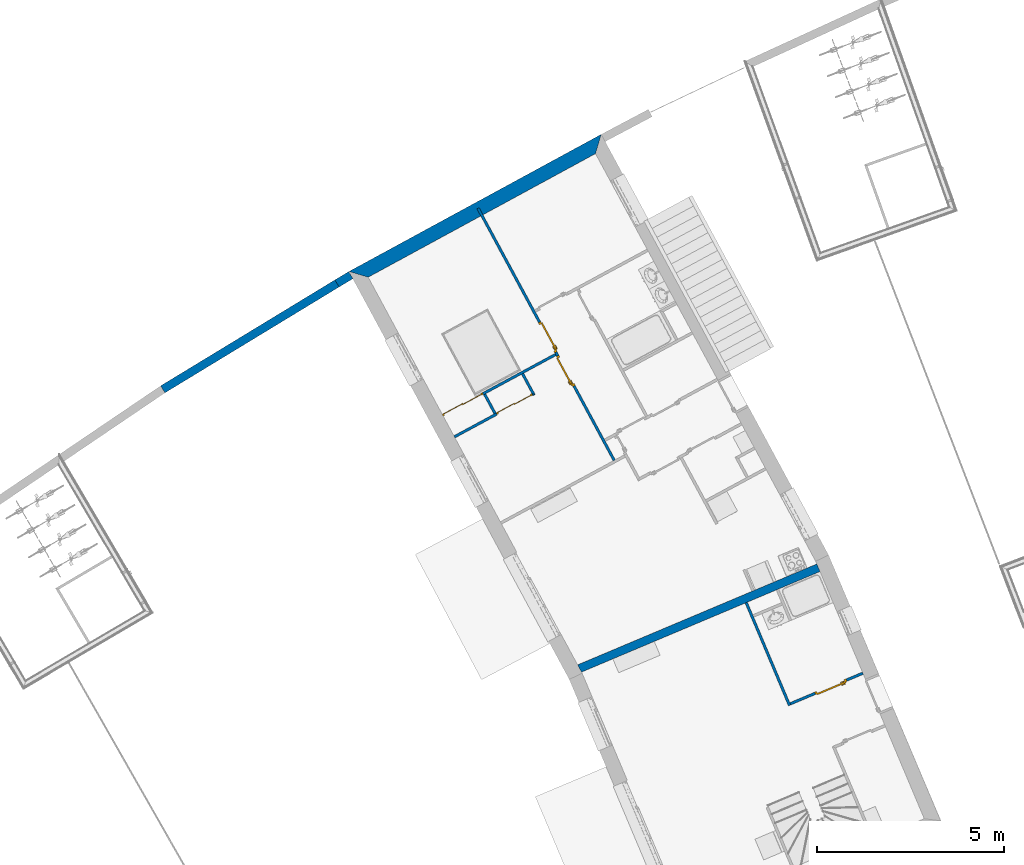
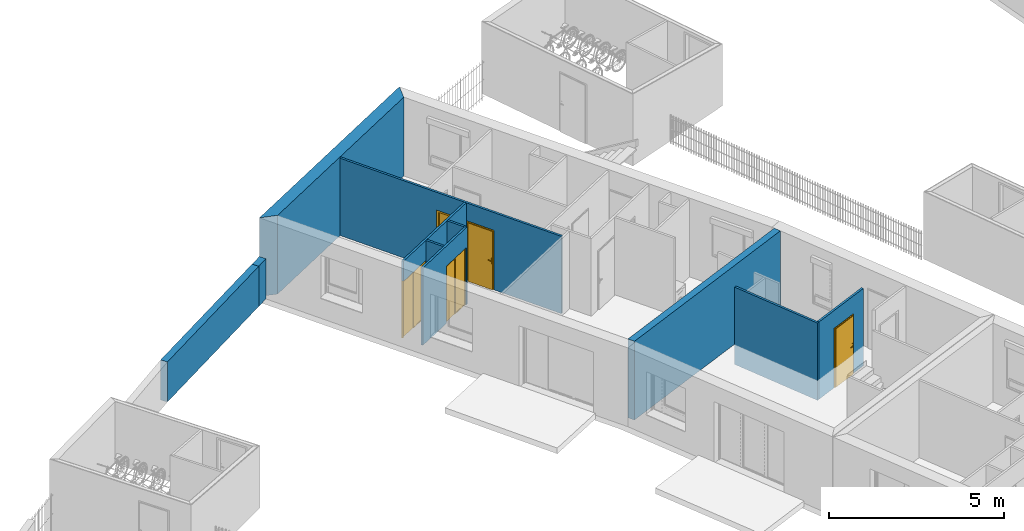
# One storey, part 62 of 195: 11 walls, 5 doors, 5 openings.
"""IFC2X3 building model written with IfcOpenShell, lengths in metres."""

from ifc_helpers import new_model, entity, si_unit, converted_unit, derived_unit, money_unit, direction, frame, origin_with_axes, origin_2d_with_axis, place, context, subcontext, project, spatial, polyline, rectangle, outline, extrude, open_shell, faceted_brep, surface_model, source, transform, mapped, material, layer, layer_set, layer_usage, type_object, element, fill, save


model = new_model("IFC2X3")

# Units and contexts
model_context = context("Model", 3, precision=1e-05, world=origin_with_axes(), true_north=direction((0.0, 1.0)))
body_context = subcontext(model_context, "Body", "Model", "MODEL_VIEW")
ifc_project = project(units=[si_unit("LENGTHUNIT", "METRE"), si_unit("AREAUNIT", "SQUARE_METRE"), si_unit("VOLUMEUNIT", "CUBIC_METRE"), converted_unit("PLANEANGLEUNIT", "DEGREE", entity("IfcPlaneAngleMeasure", 0.0174532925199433), si_unit("PLANEANGLEUNIT", "RADIAN"), dimensions=[0, 0, 0, 0, 0, 0, 0]), money_unit("CHF"), converted_unit("TIMEUNIT", "Year", entity("IfcTimeMeasure", 31557600.0), si_unit("TIMEUNIT", "SECOND"), dimensions=[0, 0, 1, 0, 0, 0, 0]), si_unit("MASSUNIT", "GRAM", prefix="KILO"), si_unit("THERMODYNAMICTEMPERATUREUNIT", "DEGREE_CELSIUS"), si_unit("LUMINOUSINTENSITYUNIT", "LUMEN"), si_unit("ENERGYUNIT", "JOULE", prefix="MEGA"), derived_unit("THERMALCONDUCTANCEUNIT", [(si_unit("POWERUNIT", "WATT"), 1), (si_unit("LENGTHUNIT", "METRE"), -1), (si_unit("THERMODYNAMICTEMPERATUREUNIT", "KELVIN"), -1)]), derived_unit("SPECIFICHEATCAPACITYUNIT", [(si_unit("ENERGYUNIT", "JOULE"), 1), (si_unit("MASSUNIT", "GRAM", prefix="KILO"), -1), (si_unit("THERMODYNAMICTEMPERATUREUNIT", "KELVIN"), -1)]), derived_unit("MASSDENSITYUNIT", [(si_unit("MASSUNIT", "GRAM", prefix="KILO"), 1), (si_unit("VOLUMEUNIT", "CUBIC_METRE"), -1)])], contexts=[model_context])

# Site, building, storey
site_placement = place(None, origin_with_axes())
site = spatial("IfcSite", under=ifc_project, at=site_placement, Name="Site", CompositionType="ELEMENT")
building_placement = place(site_placement, origin_with_axes())
building = spatial("IfcBuilding", under=site, at=building_placement, Name="Bâtiment", CompositionType="ELEMENT")
storey_placement = place(building_placement, origin_with_axes())
storey = spatial("IfcBuildingStorey", under=building, at=storey_placement, Name="rdc", CompositionType="ELEMENT", Elevation=0.0)

# Wall, opening, door
ifc_material_1 = material(Name="Hachure solide 268963992")
ifc_layer_1 = layer(ifc_material_1, 0.07, ventilated="UNKNOWN")
ifc_layer_set_1 = layer_set([ifc_layer_1], Name="Cloison 70 0826278243")
ifc_layer_usage_1 = layer_usage(ifc_layer_set_1, "AXIS2", "POSITIVE", 0.0)
wall_type_1 = type_object("IfcWallType", Name="Cloison 70 0826278243 70", PredefinedType="NOTDEFINED")
wall_1_placement = place(storey_placement, frame((9568.609521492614, -1038.217635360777, 57.0), z_axis=(0.0, 0.0, 1.0), x_axis=(-0.9214205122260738, -0.3885669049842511, 0.0)))
wall_1 = element("IfcWallStandardCase", 1, at=wall_1_placement, inside=storey, type_object=wall_type_1, material=ifc_layer_usage_1, Name="Mur-149", context=body_context, shape_type="SweptSolid", body=[
    extrude(outline(polyline([(0.3799999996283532, 0.0), (2.484511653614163, 0.0), (2.484511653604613, 0.06999999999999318), (0.3799999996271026, 0.07000000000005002), (0.3799999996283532, 0.0)])), origin_with_axes(), (0.0, 0.0, 1.0), 2.7),
])
opening_1_placement = place(wall_1_placement, frame((1.308950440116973, 0.0, 0.0), z_axis=(0.0, 0.0, 1.0), x_axis=(1.0, 0.0, 0.0)))
opening_1 = element("IfcOpeningElement", 2, at=opening_1_placement, cuts=wall_1, Name="Por-299", context=body_context, shape_type="SweptSolid", body=[
    extrude(rectangle(XDim=0.9099999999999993, YDim=2.079999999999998, at=origin_2d_with_axis()), frame((0.0, -0.06999999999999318, 1.039999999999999), z_axis=(0.0, 1.0, 0.0), x_axis=(1.0, 0.0, 0.0)), (0.0, 0.0, 1.0), 0.14),
])
door_style_1 = type_object("IfcDoorStyle", Name="Porte_1v", ConstructionType="NOTDEFINED", OperationType="NOTDEFINED", ParameterTakesPrecedence=False, Sizeable=False)
shared_shape_1 = source(origin_with_axes(), body_context, "Body", "Brep", [
    faceted_brep([(0.455, 0.0, 0.0), (0.415, 0.0, 0.0), (0.415, 0.0, 2.04), (-0.415, 0.0, 2.04), (-0.415, 0.0, 0.0), (-0.455, 0.0, 0.0), (-0.455, 0.0, 2.08), (0.455, 0.0, 2.08), (0.455, -0.07, 0.0), (0.4, -0.07, 0.0), (0.4, -0.015, 0.0), (0.415, -0.015, 0.0), (0.415, -0.015, 2.04), (-0.415, -0.015, 2.04), (-0.415, -0.015, 0.0), (-0.4, -0.015, 0.0), (-0.4, -0.07, 0.0), (-0.455, -0.07, 0.0), (-0.455, -0.07, 2.08), (0.455, -0.07, 2.08), (-0.4, -0.07, 2.025), (0.4, -0.07, 2.025), (0.4, -0.015, 2.025), (-0.4, -0.015, 2.025)], [[[0, 1, 2, 3, 4, 5, 6, 7]], [[0, 8, 9, 10, 11, 1]], [[1, 11, 12, 2]], [[2, 12, 13, 3]], [[3, 13, 14, 4]], [[5, 4, 14, 15, 16, 17]], [[18, 6, 5, 17]], [[19, 7, 6, 18]], [[8, 0, 7, 19]], [[9, 8, 19, 18, 17, 16, 20, 21]], [[10, 9, 21, 22]], [[11, 10, 22, 23, 15, 14, 13, 12]], [[23, 20, 16, 15]], [[22, 21, 20, 23]]]),
    faceted_brep([(-0.35, -0.015, 0.9), (-0.39, -0.015, 0.9), (-0.39, -0.015, 1.1), (-0.35, -0.015, 1.1), (-0.35, -0.025, 0.9), (-0.39, -0.025, 0.9), (-0.39, -0.025, 1.1), (-0.35, -0.025, 1.1)], [[[0, 1, 2, 3]], [[1, 0, 4, 5]], [[2, 1, 5, 6]], [[3, 2, 6, 7]], [[0, 3, 7, 4]], [[5, 4, 7, 6]]]),
    faceted_brep([(-0.28, -0.025, 1.0), (-0.38, -0.025, 1.0), (-0.38, -0.025, 1.02), (-0.28, -0.025, 1.02), (-0.28, -0.045, 1.0), (-0.38, -0.045, 1.0), (-0.38, -0.045, 1.02), (-0.28, -0.045, 1.02)], [[[0, 1, 2, 3]], [[1, 0, 4, 5]], [[2, 1, 5, 6]], [[3, 2, 6, 7]], [[0, 3, 7, 4]], [[5, 4, 7, 6]]]),
    faceted_brep([(-0.35, 0.035, 0.9), (-0.39, 0.035, 0.9), (-0.39, 0.035, 1.1), (-0.35, 0.035, 1.1), (-0.35, 0.025, 0.9), (-0.39, 0.025, 0.9), (-0.39, 0.025, 1.1), (-0.35, 0.025, 1.1)], [[[0, 1, 2, 3]], [[1, 0, 4, 5]], [[2, 1, 5, 6]], [[3, 2, 6, 7]], [[0, 3, 7, 4]], [[5, 4, 7, 6]]]),
    faceted_brep([(-0.28, 0.05500000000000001, 1.0), (-0.38, 0.05500000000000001, 1.0), (-0.38, 0.05500000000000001, 1.02), (-0.28, 0.05500000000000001, 1.02), (-0.28, 0.035, 1.0), (-0.38, 0.035, 1.0), (-0.38, 0.035, 1.02), (-0.28, 0.035, 1.02)], [[[0, 1, 2, 3]], [[1, 0, 4, 5]], [[2, 1, 5, 6]], [[3, 2, 6, 7]], [[0, 3, 7, 4]], [[5, 4, 7, 6]]]),
    faceted_brep([(-0.415, 0.025, 0.0), (0.415, 0.025, 0.0), (0.415, -0.015, 0.0), (-0.415, -0.015, 0.0), (-0.415, 0.025, 2.04), (0.415, 0.025, 2.04), (0.415, -0.015, 2.04), (-0.415, -0.015, 2.04)], [[[0, 1, 2, 3]], [[0, 4, 5, 1]], [[1, 5, 6, 2]], [[3, 2, 6, 7]], [[4, 0, 3, 7]], [[5, 4, 7, 6]]]),
])
door_1_placement = place(opening_1_placement, frame((-0.4149999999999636, 0.0, 0.0), z_axis=(0.0, 0.0, 1.0), x_axis=(1.0, 0.0, 0.0)))
door_1 = element("IfcDoor", 3, at=door_1_placement, inside=storey, type_object=door_style_1, Name="Por-299", OverallHeight=2.04, OverallWidth=0.83, context=body_context, shape_type="MappedRepresentation", body=[
    mapped(shared_shape_1, transform((0.4149999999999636, 0.07000000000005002, 0.0))),
])
fill(opening_1, door_1)

# Walls
ifc_layer_usage_2 = layer_usage(ifc_layer_set_1, "AXIS2", "POSITIVE", 0.0)
wall_2_placement = place(storey_placement, frame((9566.347441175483, -1039.247533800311, 57.0), z_axis=(0.0, 0.0, 1.0), x_axis=(-0.3885669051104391, 0.9214205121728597, 0.0)))
element("IfcWallStandardCase", 4, at=wall_2_placement, inside=storey, type_object=wall_type_1, material=ifc_layer_usage_2, Name="Mur-149", context=body_context, shape_type="SweptSolid", body=[
    extrude(outline(polyline([(0.0, 0.0), (2.980670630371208, 0.0), (2.980670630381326, 0.06999999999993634), (0.0, 0.06999999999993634), (0.0, 0.0)])), origin_with_axes(), (0.0, 0.0, 1.0), 2.7),
])
ifc_layer_usage_3 = layer_usage(ifc_layer_set_1, "AXIS2", "NEGATIVE", 0.0)
wall_3_placement = place(storey_placement, frame((9558.45104913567, -1031.539302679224, 57.7), z_axis=(0.0, 0.0, 1.0), x_axis=(-0.4753186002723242, 0.8798137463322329, 0.0)))
element("IfcWallStandardCase", 5, at=wall_3_placement, inside=storey, type_object=wall_type_1, material=ifc_layer_usage_3, Name="Mur-149", context=body_context, shape_type="SweptSolid", body=[
    extrude(outline(polyline([(0.07000000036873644, -0.07000000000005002), (0.6499928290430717, -0.07000000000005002), (0.6499928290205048, 0.0), (0.07000000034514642, 0.0), (0.07000000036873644, -0.07000000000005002)])), origin_with_axes(), (0.0, 0.0, 1.0), 2.7),
])

# Wall, opening, door
ifc_layer_usage_4 = layer_usage(ifc_layer_set_1, "AXIS2", "NEGATIVE", 0.0)
wall_4_placement = place(storey_placement, frame((9560.14338811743, -1029.886233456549, 57.7), z_axis=(0.0, 0.0, 1.0), x_axis=(-0.8798137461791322, -0.4753186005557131, 0.0)))
wall_4 = element("IfcWallStandardCase", 6, at=wall_4_placement, inside=storey, type_object=wall_type_1, material=ifc_layer_usage_4, Name="Mur-149", context=body_context, shape_type="SweptSolid", body=[
    extrude(outline(polyline([(0.06999999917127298, -0.06999999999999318), (3.491145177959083, -0.06999999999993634), (3.491145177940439, 0.0), (0.06999999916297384, 0.0), (0.06999999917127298, -0.06999999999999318)])), origin_with_axes(), (0.0, 0.0, 1.0), 2.7),
])
opening_2_placement = place(wall_4_placement, frame((2.882911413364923, 0.0, 0.0), z_axis=(0.0, 0.0, 1.0), x_axis=(1.0, 0.0, 0.0)))
opening_2 = element("IfcOpeningElement", 7, at=opening_2_placement, cuts=wall_4, Name="Por-351", context=body_context, shape_type="SweptSolid", body=[
    extrude(rectangle(XDim=1.216467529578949, YDim=2.0, at=origin_2d_with_axis()), frame((0.0, -0.07000000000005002, 1.0), z_axis=(0.0, 1.0, 0.0), x_axis=(1.0, 0.0, 0.0)), (0.0, 0.0, -1.0), 0.07),
    extrude(rectangle(XDim=1.216467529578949, YDim=2.0, at=origin_2d_with_axis()), frame((0.0, -0.07000000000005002, 1.0), z_axis=(0.0, -1.0, 0.0), x_axis=(1.0, 0.0, 0.0)), (0.0, 0.0, -1.0), 0.07),
])
door_style_2 = type_object("IfcDoorStyle", ConstructionType="NOTDEFINED", OperationType="NOTDEFINED", ParameterTakesPrecedence=False, Sizeable=False)
shared_shape_2 = source(origin_with_axes(), body_context, "Body", "SurfaceModel", [
    faceted_brep([(-0.6082337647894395, 0.0, 0.0), (-0.6082337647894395, 0.0, 2.0), (0.6082337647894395, 0.0, 2.0), (0.6082337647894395, 0.0, 0.0), (0.5682337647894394, 0.0, 0.0), (0.5682337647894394, 0.0, 1.96), (-0.5682337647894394, 0.0, 1.96), (-0.5682337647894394, 0.0, 0.0), (-0.6082337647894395, -0.05, 0.0), (-0.6082337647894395, -0.05, 2.0), (0.6082337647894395, -0.05, 2.0), (0.6082337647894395, -0.05, 0.0), (0.5682337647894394, -0.05, 0.0), (0.5682337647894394, -0.04, 0.0), (0.5682337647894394, -0.04, 1.96), (-0.5682337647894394, -0.04, 1.96), (-0.5682337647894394, -0.04, 0.0), (-0.5682337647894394, -0.05, 0.0), (-0.5682337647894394, -0.05, 1.96), (0.5682337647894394, -0.05, 1.96)], [[[0, 1, 2, 3, 4, 5, 6, 7]], [[8, 9, 1, 0]], [[9, 10, 2, 1]], [[10, 11, 3, 2]], [[3, 11, 12, 13, 4]], [[5, 4, 13, 14]], [[6, 5, 14, 15]], [[7, 6, 15, 16]], [[0, 7, 16, 17, 8]], [[17, 18, 19, 12, 11, 10, 9, 8]], [[14, 13, 12, 19]], [[15, 14, 19, 18]], [[16, 15, 18, 17]]]),
    faceted_brep([(0.5682337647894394, -0.02, 0.0), (0.5682337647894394, -0.04, 0.0), (-0.01500000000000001, -0.04, 0.0), (-0.01500000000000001, -0.02, 0.0), (0.5682337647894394, -0.02, 1.96), (0.5682337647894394, -0.04, 1.96), (-0.01500000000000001, -0.04, 1.96), (0.5382337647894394, -0.04, 0.03), (0.01500000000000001, -0.04, 0.03), (0.01500000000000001, -0.04, 1.93), (0.5382337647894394, -0.04, 1.93), (-0.01500000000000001, -0.02, 1.96), (0.5382337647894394, -0.02, 0.03), (0.5382337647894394, -0.02, 1.93), (0.01500000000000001, -0.02, 1.93), (0.01500000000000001, -0.02, 0.03)], [[[0, 1, 2, 3]], [[4, 5, 1, 0]], [[1, 5, 6, 2], [7, 8, 9, 10]], [[3, 2, 6, 11]], [[0, 3, 11, 4], [12, 13, 14, 15]], [[11, 6, 5, 4]], [[15, 8, 7, 12]], [[14, 9, 8, 15]], [[13, 10, 9, 14]], [[12, 7, 10, 13]]]),
    surface_model("IfcShellBasedSurfaceModel", [(0.5382337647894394, -0.03, 0.03), (0.5382337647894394, -0.03, 1.93), (0.01500000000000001, -0.03, 1.93), (0.01500000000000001, -0.03, 0.03)], [open_shell([[[0, 1, 2, 3]]])]),
    faceted_brep([(0.01500000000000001, 0.0, 0.0), (0.01500000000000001, -0.02, 0.0), (-0.5682337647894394, -0.02, 0.0), (-0.5682337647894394, 0.0, 0.0), (0.01500000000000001, 0.0, 1.96), (0.01500000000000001, -0.02, 1.96), (-0.5682337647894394, -0.02, 1.96), (-0.5682337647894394, 0.0, 1.96)], [[[0, 1, 2, 3]], [[4, 5, 1, 0]], [[1, 5, 6, 2]], [[3, 2, 6, 7]], [[0, 3, 7, 4]], [[7, 6, 5, 4]]]),
])
door_2_placement = place(opening_2_placement, frame((0.608233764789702, 0.0, 0.0), z_axis=(0.0, 0.0, 1.0), x_axis=(-1.0, 0.0, 0.0)))
door_2 = element("IfcDoor", 8, at=door_2_placement, inside=storey, type_object=door_style_2, Name="Por-351", OverallHeight=2.0, OverallWidth=1.21647, context=body_context, shape_type="MappedRepresentation", body=[
    mapped(shared_shape_2, transform((0.6082337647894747, 0.06999999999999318, 0.0))),
])
fill(opening_2, door_2)

# Wall, openings, doors
ifc_layer_usage_5 = layer_usage(ifc_layer_set_1, "AXIS2", "NEGATIVE", 0.0)
wall_5_placement = place(storey_placement, frame((9558.02583977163, -1025.966655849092, 57.7), z_axis=(0.0, 0.0, 1.0), x_axis=(0.4753186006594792, -0.8798137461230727, 0.0)))
wall_5 = element("IfcWallStandardCase", 9, at=wall_5_placement, inside=storey, type_object=wall_type_1, material=ifc_layer_usage_5, Name="Mur-149", context=body_context, shape_type="SweptSolid", body=[
    extrude(outline(polyline([(0.0, -0.06999999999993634), (7.649325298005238, -0.06999999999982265), (7.649325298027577, 0.0), (0.0, 0.0), (0.0, -0.06999999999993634)])), origin_with_axes(), (0.0, 0.0, 1.0), 2.7),
])
opening_3_placement = place(wall_5_placement, frame((3.914710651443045, 0.0, 0.0), z_axis=(0.0, 0.0, 1.0), x_axis=(1.0, 0.0, 0.0)))
opening_3 = element("IfcOpeningElement", 10, at=opening_3_placement, cuts=wall_5, Name="Por-301", context=body_context, shape_type="SweptSolid", body=[
    extrude(rectangle(XDim=0.9099999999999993, YDim=2.079999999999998, at=origin_2d_with_axis()), frame((0.0, -0.06999999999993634, 1.039999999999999), z_axis=(0.0, -1.0, 0.0), x_axis=(-1.0, 0.0, 0.0)), (0.0, 0.0, -1.0), 0.14),
])
opening_4_placement = place(wall_5_placement, frame((4.935912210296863, 0.0, 0.0), z_axis=(0.0, 0.0, 1.0), x_axis=(1.0, 0.0, 0.0)))
opening_4 = element("IfcOpeningElement", 11, at=opening_4_placement, cuts=wall_5, Name="Por-302", context=body_context, shape_type="SweptSolid", body=[
    extrude(rectangle(XDim=0.9099999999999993, YDim=2.079999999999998, at=origin_2d_with_axis()), frame((0.0, 0.06999999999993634, 1.039999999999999), z_axis=(0.0, -1.0, 0.0), x_axis=(-1.0, 0.0, 0.0)), (0.0, 0.0, 1.0), 0.14),
])
door_3_placement = place(opening_4_placement, frame((0.4150000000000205, 0.0, 0.0), z_axis=(0.0, 0.0, 1.0), x_axis=(-1.0, 0.0, 0.0)))
door_3 = element("IfcDoor", 12, at=door_3_placement, inside=storey, type_object=door_style_1, Name="Por-302", OverallHeight=2.04, OverallWidth=0.83, context=body_context, shape_type="MappedRepresentation", body=[
    mapped(shared_shape_1, transform((0.4149999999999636, 0.06999999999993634, 0.0))),
])
fill(opening_4, door_3)
shared_shape_3 = source(origin_with_axes(), body_context, "Body", "Brep", [
    faceted_brep([(-0.455, 0.0, 0.0), (-0.455, 0.0, 2.08), (0.455, 0.0, 2.08), (0.455, 0.0, 0.0), (0.415, 0.0, 0.0), (0.415, 0.0, 2.04), (-0.415, 0.0, 2.04), (-0.415, 0.0, 0.0), (-0.455, -0.07, 0.0), (-0.455, -0.07, 2.08), (0.455, -0.07, 2.08), (0.455, -0.07, 0.0), (0.4, -0.07, 0.0), (0.4, -0.015, 0.0), (0.415, -0.015, 0.0), (0.415, -0.015, 2.04), (-0.415, -0.015, 2.04), (-0.415, -0.015, 0.0), (-0.4, -0.015, 0.0), (-0.4, -0.07, 0.0), (-0.4, -0.07, 2.025), (0.4, -0.07, 2.025), (0.4, -0.015, 2.025), (-0.4, -0.015, 2.025)], [[[0, 1, 2, 3, 4, 5, 6, 7]], [[8, 9, 1, 0]], [[9, 10, 2, 1]], [[10, 11, 3, 2]], [[3, 11, 12, 13, 14, 4]], [[5, 4, 14, 15]], [[6, 5, 15, 16]], [[7, 6, 16, 17]], [[0, 7, 17, 18, 19, 8]], [[19, 20, 21, 12, 11, 10, 9, 8]], [[22, 13, 12, 21]], [[17, 16, 15, 14, 13, 22, 23, 18]], [[18, 23, 20, 19]], [[23, 22, 21, 20]]]),
    faceted_brep([(0.35, -0.015, 0.9), (0.35, -0.015, 1.1), (0.39, -0.015, 1.1), (0.39, -0.015, 0.9), (0.35, -0.025, 0.9), (0.35, -0.025, 1.1), (0.39, -0.025, 1.1), (0.39, -0.025, 0.9)], [[[0, 1, 2, 3]], [[0, 4, 5, 1]], [[1, 5, 6, 2]], [[2, 6, 7, 3]], [[3, 7, 4, 0]], [[7, 6, 5, 4]]]),
    faceted_brep([(0.28, -0.025, 1.0), (0.28, -0.025, 1.02), (0.38, -0.025, 1.02), (0.38, -0.025, 1.0), (0.28, -0.045, 1.0), (0.28, -0.045, 1.02), (0.38, -0.045, 1.02), (0.38, -0.045, 1.0)], [[[0, 1, 2, 3]], [[0, 4, 5, 1]], [[1, 5, 6, 2]], [[2, 6, 7, 3]], [[3, 7, 4, 0]], [[7, 6, 5, 4]]]),
    faceted_brep([(0.35, 0.035, 0.9), (0.35, 0.035, 1.1), (0.39, 0.035, 1.1), (0.39, 0.035, 0.9), (0.35, 0.025, 0.9), (0.35, 0.025, 1.1), (0.39, 0.025, 1.1), (0.39, 0.025, 0.9)], [[[0, 1, 2, 3]], [[0, 4, 5, 1]], [[1, 5, 6, 2]], [[2, 6, 7, 3]], [[3, 7, 4, 0]], [[7, 6, 5, 4]]]),
    faceted_brep([(0.28, 0.05500000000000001, 1.0), (0.28, 0.05500000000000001, 1.02), (0.38, 0.05500000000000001, 1.02), (0.38, 0.05500000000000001, 1.0), (0.28, 0.035, 1.0), (0.28, 0.035, 1.02), (0.38, 0.035, 1.02), (0.38, 0.035, 1.0)], [[[0, 1, 2, 3]], [[0, 4, 5, 1]], [[1, 5, 6, 2]], [[2, 6, 7, 3]], [[3, 7, 4, 0]], [[7, 6, 5, 4]]]),
    faceted_brep([(0.415, 0.025, 0.0), (0.415, -0.015, 0.0), (-0.415, -0.015, 0.0), (-0.415, 0.025, 0.0), (0.415, 0.025, 2.04), (0.415, -0.015, 2.04), (-0.415, -0.015, 2.04), (-0.415, 0.025, 2.04)], [[[0, 1, 2, 3]], [[4, 5, 1, 0]], [[1, 5, 6, 2]], [[3, 2, 6, 7]], [[0, 3, 7, 4]], [[7, 6, 5, 4]]]),
])
door_4_placement = place(opening_3_placement, frame((-0.4149999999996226, 0.0, 0.0), z_axis=(0.0, 0.0, 1.0), x_axis=(1.0, 0.0, 0.0)))
door_4 = element("IfcDoor", 13, at=door_4_placement, inside=storey, type_object=door_style_1, Name="Por-301", OverallHeight=2.04, OverallWidth=0.83, context=body_context, shape_type="MappedRepresentation", body=[
    mapped(shared_shape_3, transform((0.4149999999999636, 0.0, 0.0))),
])
fill(opening_3, door_4)

# Wall
ifc_layer_usage_6 = layer_usage(ifc_layer_set_1, "AXIS2", "NEGATIVE", 0.0)
wall_6_placement = place(storey_placement, frame((9559.463161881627, -1030.992509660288, 57.7), z_axis=(0.0, 0.0, 1.0), x_axis=(-0.4753186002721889, 0.879813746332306, 0.0)))
element("IfcWallStandardCase", 14, at=wall_6_placement, inside=storey, type_object=wall_type_1, material=ifc_layer_usage_6, Name="Mur-149", context=body_context, shape_type="SweptSolid", body=[
    extrude(outline(polyline([(0.0, -0.06999999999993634), (0.6499928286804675, -0.07000000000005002), (0.6499928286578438, 0.0), (0.06999999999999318, 0.0), (0.0, -0.06999999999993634)])), origin_with_axes(), (0.0, 0.0, 1.0), 2.7),
])

# Wall, opening, door
ifc_layer_usage_7 = layer_usage(ifc_layer_set_1, "AXIS2", "NEGATIVE", 0.0)
wall_7_placement = place(storey_placement, frame((9559.463161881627, -1030.992509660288, 57.7), z_axis=(0.0, 0.0, 1.0), x_axis=(-0.8798137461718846, -0.4753186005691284, 0.0)))
wall_7 = element("IfcWallStandardCase", 15, at=wall_7_placement, inside=storey, type_object=wall_type_1, material=ifc_layer_usage_7, Name="Mur-149", context=body_context, shape_type="SweptSolid", body=[
    extrude(outline(polyline([(0.0, -0.06999999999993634), (2.366839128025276, -0.06999999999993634), (2.366839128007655, 0.0), (-0.07000000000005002, 0.0), (0.0, -0.06999999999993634)])), origin_with_axes(), (0.0, 0.0, 1.0), 2.7),
])
opening_5_placement = place(wall_7_placement, frame((0.5401857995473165, 0.0, 0.0), z_axis=(0.0, 0.0, 1.0), x_axis=(1.0, 0.0, 0.0)))
opening_5 = element("IfcOpeningElement", 16, at=opening_5_placement, cuts=wall_7, Name="Por-350", context=body_context, shape_type="SweptSolid", body=[
    extrude(rectangle(XDim=1.080371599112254, YDim=2.0, at=origin_2d_with_axis()), frame((0.0, -0.06999999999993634, 1.0), z_axis=(0.0, 1.0, 0.0), x_axis=(1.0, 0.0, 0.0)), (0.0, 0.0, -1.0), 0.07),
    extrude(rectangle(XDim=1.080371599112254, YDim=2.0, at=origin_2d_with_axis()), frame((0.0, -0.06999999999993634, 1.0), z_axis=(0.0, -1.0, 0.0), x_axis=(1.0, 0.0, 0.0)), (0.0, 0.0, -1.0), 0.07),
])
shared_shape_4 = source(origin_with_axes(), body_context, "Body", "SurfaceModel", [
    faceted_brep([(-0.5401857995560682, 0.0, 0.0), (-0.5401857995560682, 0.0, 2.0), (0.5401857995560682, 0.0, 2.0), (0.5401857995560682, 0.0, 0.0), (0.5001857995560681, 0.0, 0.0), (0.5001857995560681, 0.0, 1.96), (-0.5001857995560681, 0.0, 1.96), (-0.5001857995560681, 0.0, 0.0), (-0.5401857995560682, -0.05, 0.0), (-0.5401857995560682, -0.05, 2.0), (0.5401857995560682, -0.05, 2.0), (0.5401857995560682, -0.05, 0.0), (0.5001857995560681, -0.05, 0.0), (0.5001857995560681, -0.04, 0.0), (0.5001857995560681, -0.04, 1.96), (-0.5001857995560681, -0.04, 1.96), (-0.5001857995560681, -0.04, 0.0), (-0.5001857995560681, -0.05, 0.0), (-0.5001857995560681, -0.05, 1.96), (0.5001857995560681, -0.05, 1.96)], [[[0, 1, 2, 3, 4, 5, 6, 7]], [[8, 9, 1, 0]], [[9, 10, 2, 1]], [[10, 11, 3, 2]], [[3, 11, 12, 13, 4]], [[5, 4, 13, 14]], [[6, 5, 14, 15]], [[7, 6, 15, 16]], [[0, 7, 16, 17, 8]], [[17, 18, 19, 12, 11, 10, 9, 8]], [[14, 13, 12, 19]], [[15, 14, 19, 18]], [[16, 15, 18, 17]]]),
    faceted_brep([(0.5001857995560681, -0.02, 0.0), (0.5001857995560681, -0.04, 0.0), (-0.01500000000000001, -0.04, 0.0), (-0.01500000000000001, -0.02, 0.0), (0.5001857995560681, -0.02, 1.96), (0.5001857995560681, -0.04, 1.96), (-0.01500000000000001, -0.04, 1.96), (0.4701857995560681, -0.04, 0.03), (0.01500000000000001, -0.04, 0.03), (0.01500000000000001, -0.04, 1.93), (0.4701857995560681, -0.04, 1.93), (-0.01500000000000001, -0.02, 1.96), (0.4701857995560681, -0.02, 0.03), (0.4701857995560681, -0.02, 1.93), (0.01500000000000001, -0.02, 1.93), (0.01500000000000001, -0.02, 0.03)], [[[0, 1, 2, 3]], [[4, 5, 1, 0]], [[1, 5, 6, 2], [7, 8, 9, 10]], [[3, 2, 6, 11]], [[0, 3, 11, 4], [12, 13, 14, 15]], [[11, 6, 5, 4]], [[15, 8, 7, 12]], [[14, 9, 8, 15]], [[13, 10, 9, 14]], [[12, 7, 10, 13]]]),
    surface_model("IfcShellBasedSurfaceModel", [(0.4701857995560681, -0.03, 0.03), (0.4701857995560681, -0.03, 1.93), (0.01499999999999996, -0.03, 1.93), (0.01499999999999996, -0.03, 0.03)], [open_shell([[[0, 1, 2, 3]]])]),
    faceted_brep([(0.01500000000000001, 0.0, 0.0), (0.01500000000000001, -0.02, 0.0), (-0.5001857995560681, -0.02, 0.0), (-0.5001857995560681, 0.0, 0.0), (0.01500000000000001, 0.0, 1.96), (0.01500000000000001, -0.02, 1.96), (-0.5001857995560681, -0.02, 1.96), (-0.5001857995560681, 0.0, 1.96)], [[[0, 1, 2, 3]], [[4, 5, 1, 0]], [[1, 5, 6, 2]], [[3, 2, 6, 7]], [[0, 3, 7, 4]], [[7, 6, 5, 4]]]),
])
door_5_placement = place(opening_5_placement, frame((0.5401857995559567, 0.0, 0.0), z_axis=(0.0, 0.0, 1.0), x_axis=(-1.0, 0.0, 0.0)))
door_5 = element("IfcDoor", 17, at=door_5_placement, inside=storey, type_object=door_style_2, Name="Por-350", OverallHeight=2.0, OverallWidth=1.08037, context=body_context, shape_type="MappedRepresentation", body=[
    mapped(shared_shape_4, transform((0.5401857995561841, 0.06999999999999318, 0.0))),
])
fill(opening_5, door_5)

# Walls
ifc_material_2 = material(Name="Parpaing 312445824")
ifc_layer_2 = layer(ifc_material_2, 0.22, ventilated="UNKNOWN")
ifc_material_3 = material(Name="Isolant styromousse 301821074")
ifc_layer_3 = layer(ifc_material_3, 0.16, ventilated="UNKNOWN")
ifc_layer_set_2 = layer_set([ifc_layer_2, ifc_layer_3], Name="isol int 22+16 0836643197")
ifc_layer_usage_8 = layer_usage(ifc_layer_set_2, "AXIS2", "POSITIVE", 0.0)
wall_type_2 = type_object("IfcWallType", Name="isol int 22+16 0836643197 380", PredefinedType="NOTDEFINED")
wall_8_placement = place(storey_placement, frame((9561.285709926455, -1024.008620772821, 57.7), z_axis=(0.0, 0.0, 1.0), x_axis=(-0.8785914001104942, -0.4775742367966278, 0.0)))
element("IfcWallStandardCase", 18, at=wall_8_placement, inside=storey, type_object=wall_type_2, material=ifc_layer_usage_8, Name="Mur-113", context=body_context, shape_type="SweptSolid", body=[
    extrude(outline(polyline([(0.0, 0.0), (7.66993948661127, 0.0), (7.29091314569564, 0.3799999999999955), (0.3809761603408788, 0.3799999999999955), (0.0, 0.0)])), origin_with_axes(), (0.0, 0.0, 1.0), 2.75),
])
ifc_layer_4 = layer(ifc_material_2, 0.22, ventilated="UNKNOWN")
ifc_layer_set_3 = layer_set([ifc_layer_4], Name="Beton  22 0836643198")
ifc_layer_usage_9 = layer_usage(ifc_layer_set_3, "AXIS2", "NEGATIVE", 0.0)
wall_type_3 = type_object("IfcWallType", Name="Beton  22 0836643198 220", PredefinedType="NOTDEFINED")
wall_9_placement = place(storey_placement, frame((9554.173543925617, -1027.895367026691, 57.7), z_axis=(0.0, 0.0, 1.0), x_axis=(0.8575237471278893, 0.5144443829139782, 0.0)))
element("IfcWallStandardCase", 19, at=wall_9_placement, inside=storey, type_object=wall_type_3, material=ifc_layer_usage_9, Name="Mur-108", context=body_context, shape_type="SweptSolid", body=[
    extrude(outline(polyline([(0.000638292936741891, -0.2200000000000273), (0.4304443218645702, -0.2199999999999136), (0.4304443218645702, 0.0), (0.0, 0.0), (0.000638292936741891, -0.2200000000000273)])), origin_with_axes(), (0.0, 0.0, 1.0), 1.399999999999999),
])
ifc_material_4 = material(Name="Parpaing 314940890")
ifc_layer_5 = layer(ifc_material_4, 0.22, ventilated="UNKNOWN")
ifc_layer_set_4 = layer_set([ifc_layer_5], Name="Beton  22 0836643197")
ifc_layer_usage_10 = layer_usage(ifc_layer_set_4, "AXIS2", "POSITIVE", 0.0)
wall_type_4 = type_object("IfcWallType", Name="Beton  22 0836643197 220", PredefinedType="NOTDEFINED")
wall_10_placement = place(storey_placement, frame((9567.393046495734, -1035.332971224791, 57.7), z_axis=(0.0, 0.0, 1.0), x_axis=(-0.9214205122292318, -0.3885669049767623, 0.0)))
element("IfcWallStandardCase", 20, at=wall_10_placement, inside=storey, type_object=wall_type_4, material=ifc_layer_usage_10, Name="Mur-105", context=body_context, shape_type="SweptSolid", body=[
    extrude(outline(polyline([(0.3800000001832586, 0.0), (7.314413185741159, 0.0), (7.29317247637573, 0.2199999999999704), (0.380000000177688, 0.2199999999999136), (0.3800000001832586, 0.0)])), origin_with_axes(), (0.0, 0.0, 1.0), 2.750000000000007),
])
ifc_material_5 = material(Name="Empty Fill 3000033799")
ifc_layer_6 = layer(ifc_material_5, 0.22, ventilated="UNKNOWN")
ifc_layer_set_5 = layer_set([ifc_layer_6], Name="acrotère 22")
ifc_layer_usage_11 = layer_usage(ifc_layer_set_5, "AXIS2", "POSITIVE", 0.0)
wall_type_5 = type_object("IfcWallType", Name="acrotère 22 220", PredefinedType="NOTDEFINED")
wall_11_placement = place(storey_placement, frame((9554.173543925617, -1027.895367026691, 57.7), z_axis=(0.0, 0.0, 1.0), x_axis=(-0.8545241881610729, -0.5194116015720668, 0.0)))
element("IfcWallStandardCase", 21, at=wall_11_placement, inside=storey, type_object=wall_type_5, material=ifc_layer_usage_11, Name="Mur-108", context=body_context, shape_type="SweptSolid", body=[
    extrude(outline(polyline([(0.0, 0.0), (5.448215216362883, 0.0), (5.442813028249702, 0.2199999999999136), (0.0006382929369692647, 0.2199999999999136), (0.0, 0.0)])), origin_with_axes(), (0.0, 0.0, 1.0), 1.4),
])

save(model, "model.ifc")
